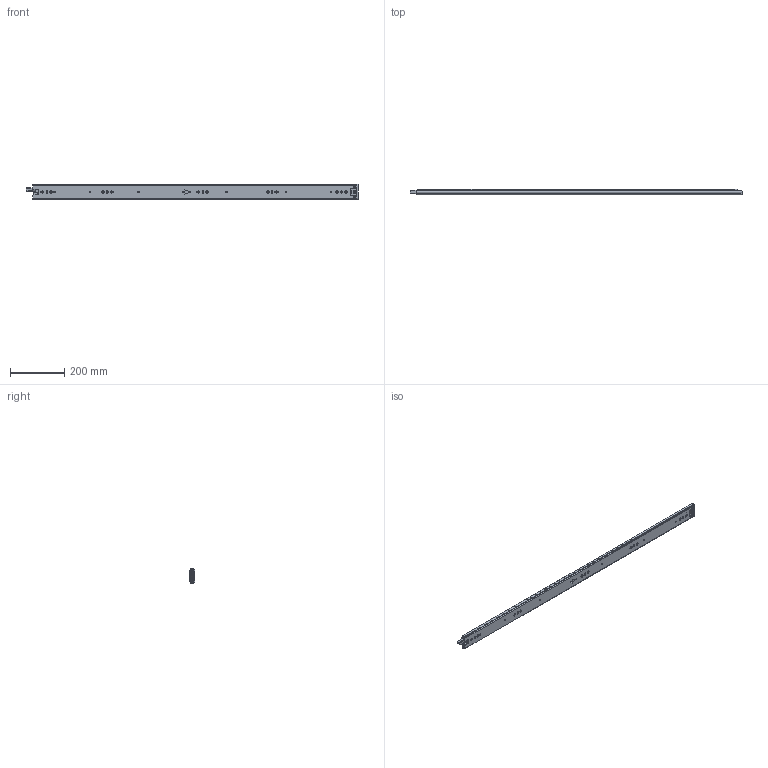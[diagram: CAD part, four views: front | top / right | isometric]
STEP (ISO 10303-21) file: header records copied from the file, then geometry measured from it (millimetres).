
FILE_DESCRIPTION((''),'2;1');
FILE_NAME('KP-57-01ZUZHUANGTU-48YOU_ASM','2023-04-04T',('jishu015'),(''),'PRO/ENGINEER BY PARAMETRIC TECHNOLOGY CORPORATION, 2010280','PRO/ENGINEER BY PARAMETRIC TECHNOLOGY CORPORATION, 2010280','');
FILE_SCHEMA(('CONFIG_CONTROL_DESIGN'));
Products named in the file (21): KP-57-01WEIKE-18_____; 1057WEIJIAO_____; WAIKE____ASM; KP-57-01ZHONGGUI-18_____; ZHONGGUIPEIJIAN-11___; ZHONGGUISUOKOU-11___; KP-57-01ZHONGGUI-18______ASM; 1057XIAOZHUJIA_____; 1057-5-6GANZHU_____; 1057XIAOZHUJIA-14GE______ASM; KP-57-01NEIGUI-18_____; PJ-57-08___; DIAOPIAN-11___; 50XINSUOKOU-1___; 1053-3SBANJI122_; JIAO11_; KP-57-01NEIGUI-18______ASM; 1053ZHUTIAO-175_________; 53-5-6GANZHU_________; 1053ZHUTIAO-175MM____ASM; KP-57-01ZUZHUANGTU-48YOU_ASM
Assembly tree (129 placements, depth 3):
  KP-57-01ZUZHUANGTU-48YOU_ASM
    WAIKE____ASM
      KP-57-01WEIKE-18_____
      1057WEIJIAO_____
    KP-57-01ZHONGGUI-18______ASM
      KP-57-01ZHONGGUI-18_____
      ZHONGGUIPEIJIAN-11___
      ZHONGGUISUOKOU-11___
    1057XIAOZHUJIA-14GE______ASM
      1057XIAOZHUJIA_____
      1057-5-6GANZHU_____  x88
    KP-57-01NEIGUI-18______ASM
      KP-57-01NEIGUI-18_____
      PJ-57-08___
      DIAOPIAN-11___
      50XINSUOKOU-1___
      1053-3SBANJI122_
      JIAO11_
    1053ZHUTIAO-175MM____ASM  x2
      1053ZHUTIAO-175_________
      53-5-6GANZHU_________
Bounding box: 1225.42 x 19.05 x 57.67 mm (x, y, z)
Volume: 530124.9 mm3; surface area: 578980.5 mm2
Topology: 147 solids, 147 shells, 3328 faces, 9681 edges, 6008 vertices
Faces by surface type: cylinder 1467, plane 1311, sphere 275, bspline 149, cone 86, extrusion 23, torus 17
Entity records: 105727 total; most frequent: CARTESIAN_POINT 25858, ORIENTED_EDGE 16930, DIRECTION 16461, EDGE_CURVE 8465, AXIS2_PLACEMENT_3D 5676, VERTEX_POINT 5468, VECTOR 5109, LINE 5086
